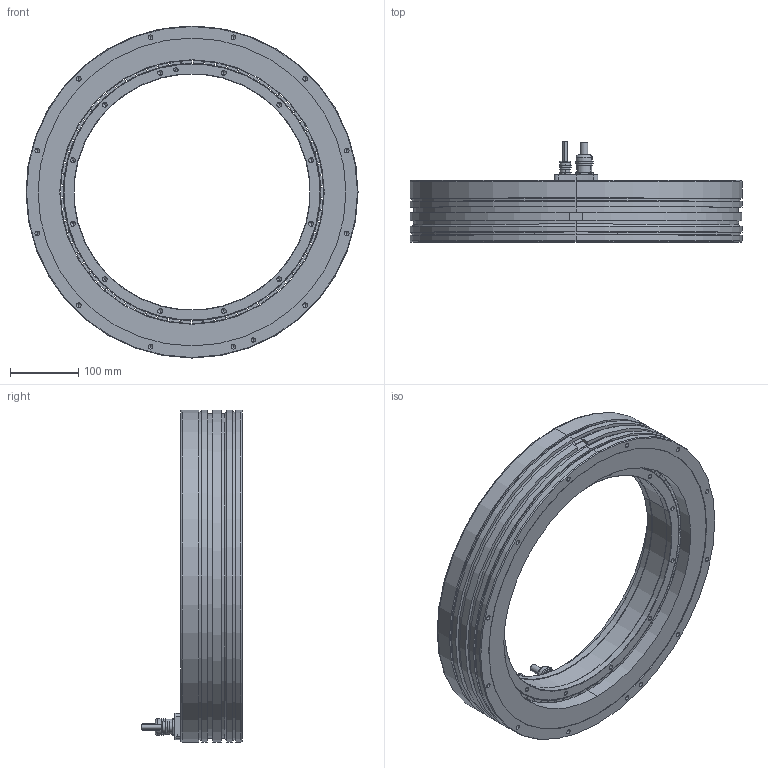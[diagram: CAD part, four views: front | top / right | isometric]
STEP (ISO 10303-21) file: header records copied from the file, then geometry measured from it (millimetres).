
FILE_DESCRIPTION (( 'STEP AP214' ), '1' );
FILE_NAME ('TORQUE KIT QMT HA 485-90-I-AX.STEP', '2025-10-03T11:39:18', ( '' ), ( '' ), 'SwSTEP 2.0', 'SolidWorks 2023', '' );
FILE_SCHEMA (( 'AUTOMOTIVE_DESIGN' ));
Length unit declared in the file: millimetre
Products named in the file (21): Cable Clamp; Cooling Ring; Housing; Magnet; Resin; Rotor; Gable Gland; Cable; Screw; Cable Connection; Stator; Housing-BO; TORQUE KIT QMT HA 485-90-I-AX; Rotor Glued; Rotor Ring
Assembly tree (90 placements, depth 6):
  TORQUE KIT QMT HA 485-90-I-AX
    Stator
      Stator
        Housing
          Housing-BO
            Cooling Ring
        Cable Connection
          Cable Connection
          Cable
          Cable
        Resin
      Cable Clamp
        Cable Clamp
        Gable Gland
        Gable Gland
      Screw  x3
    Rotor
      Rotor Glued
        Rotor Ring
        Magnet  x35
        Magnet  x35
Bounding box: 485 x 147.1 x 485 mm (x, y, z)
Volume: 6916311.4 mm3; surface area: 1013475.6 mm2
Topology: 82 solids, 82 shells, 2976 faces, 6776 edges, 3677 vertices
Faces by surface type: cylinder 1270, sphere 700, plane 480, torus 310, cone 216
Entity records: 30846 total; most frequent: CARTESIAN_POINT 4508, DIRECTION 4494, ORIENTED_EDGE 3676, AXIS2_PLACEMENT_3D 1869, EDGE_CURVE 1838, VERTEX_POINT 1155, EDGE_LOOP 957, CIRCLE 954
